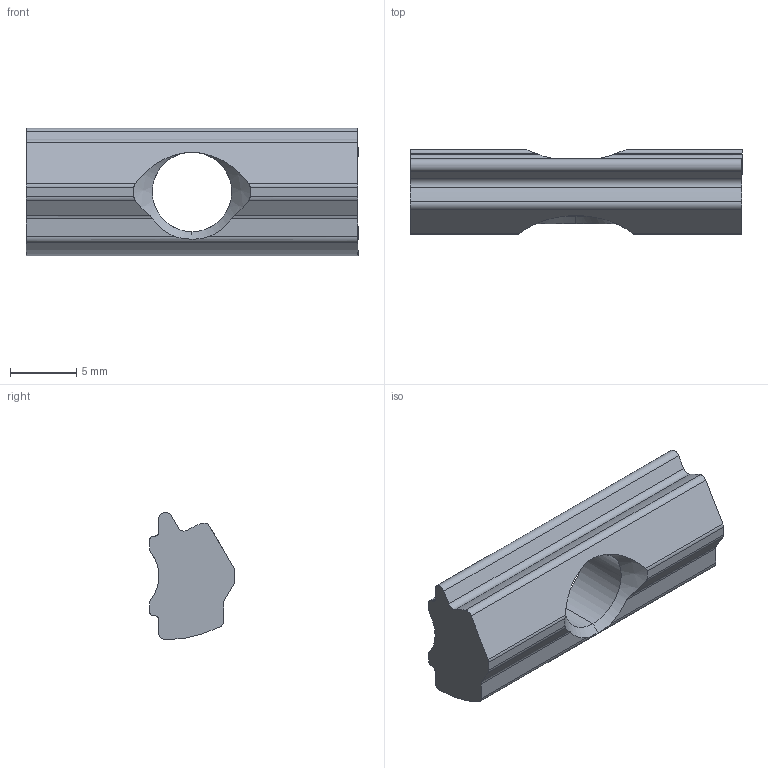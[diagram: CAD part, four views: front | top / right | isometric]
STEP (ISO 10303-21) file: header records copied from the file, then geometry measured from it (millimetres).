
FILE_DESCRIPTION((''),'2;1');
FILE_NAME('E:\端から修正\NAMT-06.stp','2013-11-07T16:18:17',('AMS8'),(''),'Autodesk Inventor 2008','Autodesk Inventor 2008','');
FILE_SCHEMA(('AUTOMOTIVE_DESIGN { 1 0 10303 214 1 1 1 1 }'));
Length unit declared in the file: millimetre
Products named in the file (4): NAST-06; DEFAULT; DEFAULTA
Assembly tree (3 placements, depth 3):
  NAST-06
    DEFAULT
      DEFAULT
      DEFAULTA
Bounding box: 25 x 6.4 x 9.6 mm (x, y, z)
Volume: 937.3 mm3; surface area: 811 mm2
Topology: 1 solids, 1 shells, 53 faces, 166 edges, 113 vertices
Faces by surface type: cylinder 29, plane 20, cone 4
Entity records: 2094 total; most frequent: CARTESIAN_POINT 531, ORIENTED_EDGE 332, DIRECTION 302, EDGE_CURVE 166, AXIS2_PLACEMENT_3D 114, VERTEX_POINT 113, VECTOR 74, LINE 74
